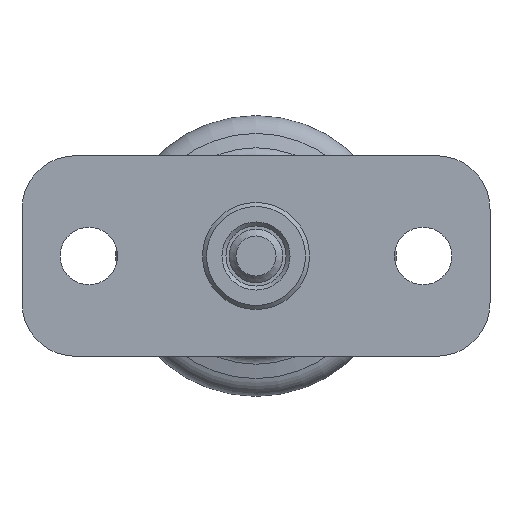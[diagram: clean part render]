
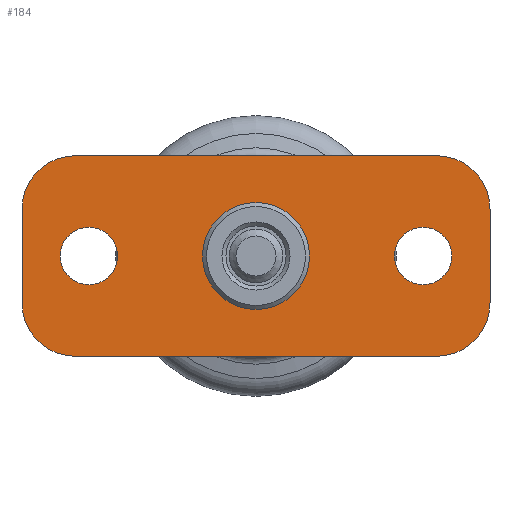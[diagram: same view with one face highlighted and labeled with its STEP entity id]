
A CAD part, front view. The second image highlights one B-rep face of the part: STEP entity #184.
In plain terms, the highlighted planar face has unit normal (0, -1, 0).
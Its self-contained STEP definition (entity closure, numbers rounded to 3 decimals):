
#184 = ADVANCED_FACE( '', ( #294, #295, #296, #297 ), #298, .F. );
#294 = FACE_BOUND( '', #494, .T. );
#295 = FACE_BOUND( '', #495, .T. );
#296 = FACE_OUTER_BOUND( '', #496, .T. );
#297 = FACE_BOUND( '', #497, .T. );
#298 = PLANE( '', #498 );
#494 = EDGE_LOOP( '', ( #742 ) );
#495 = EDGE_LOOP( '', ( #743 ) );
#496 = EDGE_LOOP( '', ( #744, #745, #746, #747, #748, #749, #750, #751 ) );
#497 = EDGE_LOOP( '', ( #752 ) );
#498 = AXIS2_PLACEMENT_3D( '', #753, #754, #755 );
#742 = ORIENTED_EDGE( '', *, *, #1252, .F. );
#743 = ORIENTED_EDGE( '', *, *, #1253, .F. );
#744 = ORIENTED_EDGE( '', *, *, #1254, .F. );
#745 = ORIENTED_EDGE( '', *, *, #1255, .F. );
#746 = ORIENTED_EDGE( '', *, *, #1256, .F. );
#747 = ORIENTED_EDGE( '', *, *, #1257, .F. );
#748 = ORIENTED_EDGE( '', *, *, #1258, .F. );
#749 = ORIENTED_EDGE( '', *, *, #1259, .F. );
#750 = ORIENTED_EDGE( '', *, *, #1260, .F. );
#751 = ORIENTED_EDGE( '', *, *, #1261, .F. );
#752 = ORIENTED_EDGE( '', *, *, #1238, .F. );
#753 = CARTESIAN_POINT( '', ( -13.5, 0., 3.5 ) );
#754 = DIRECTION( '', ( 0., 1., 0. ) );
#755 = DIRECTION( '', ( 0., 0., 1. ) );
#1238 = EDGE_CURVE( '', #1416, #1416, #1417, .T. );
#1252 = EDGE_CURVE( '', #1443, #1443, #1444, .T. );
#1253 = EDGE_CURVE( '', #1445, #1445, #1446, .T. );
#1254 = EDGE_CURVE( '', #1447, #1448, #1449, .T. );
#1255 = EDGE_CURVE( '', #1450, #1447, #1451, .T. );
#1256 = EDGE_CURVE( '', #1452, #1450, #1453, .T. );
#1257 = EDGE_CURVE( '', #1454, #1452, #1455, .T. );
#1258 = EDGE_CURVE( '', #1456, #1454, #1457, .T. );
#1259 = EDGE_CURVE( '', #1458, #1456, #1459, .T. );
#1260 = EDGE_CURVE( '', #1460, #1458, #1461, .T. );
#1261 = EDGE_CURVE( '', #1448, #1460, #1462, .T. );
#1416 = VERTEX_POINT( '', #1723 );
#1417 = CIRCLE( '', #1724, 4. );
#1443 = VERTEX_POINT( '', #1753 );
#1444 = CIRCLE( '', #1754, 2.15 );
#1445 = VERTEX_POINT( '', #1755 );
#1446 = CIRCLE( '', #1756, 2.15 );
#1447 = VERTEX_POINT( '', #1757 );
#1448 = VERTEX_POINT( '', #1758 );
#1449 = CIRCLE( '', #1759, 4. );
#1450 = VERTEX_POINT( '', #1760 );
#1451 = LINE( '', #1761, #1762 );
#1452 = VERTEX_POINT( '', #1763 );
#1453 = CIRCLE( '', #1764, 4. );
#1454 = VERTEX_POINT( '', #1765 );
#1455 = LINE( '', #1766, #1767 );
#1456 = VERTEX_POINT( '', #1768 );
#1457 = CIRCLE( '', #1769, 4. );
#1458 = VERTEX_POINT( '', #1770 );
#1459 = LINE( '', #1771, #1772 );
#1460 = VERTEX_POINT( '', #1773 );
#1461 = CIRCLE( '', #1774, 4. );
#1462 = LINE( '', #1775, #1776 );
#1723 = CARTESIAN_POINT( '', ( 0., 0., -4. ) );
#1724 = AXIS2_PLACEMENT_3D( '', #2221, #2222, #2223 );
#1753 = CARTESIAN_POINT( '', ( 12.5, 0., -2.15 ) );
#1754 = AXIS2_PLACEMENT_3D( '', #2257, #2258, #2259 );
#1755 = CARTESIAN_POINT( '', ( -12.5, 0., -2.15 ) );
#1756 = AXIS2_PLACEMENT_3D( '', #2260, #2261, #2262 );
#1757 = CARTESIAN_POINT( '', ( -13.5, 0., -7.5 ) );
#1758 = CARTESIAN_POINT( '', ( -17.5, 0., -3.5 ) );
#1759 = AXIS2_PLACEMENT_3D( '', #2263, #2264, #2265 );
#1760 = CARTESIAN_POINT( '', ( 13.5, 0., -7.5 ) );
#1761 = CARTESIAN_POINT( '', ( 13.5, 0., -7.5 ) );
#1762 = VECTOR( '', #2266, 1000. );
#1763 = CARTESIAN_POINT( '', ( 17.5, 0., -3.5 ) );
#1764 = AXIS2_PLACEMENT_3D( '', #2267, #2268, #2269 );
#1765 = CARTESIAN_POINT( '', ( 17.5, 0., 3.5 ) );
#1766 = CARTESIAN_POINT( '', ( 17.5, 0., 3.5 ) );
#1767 = VECTOR( '', #2270, 1000. );
#1768 = CARTESIAN_POINT( '', ( 13.5, 0., 7.5 ) );
#1769 = AXIS2_PLACEMENT_3D( '', #2271, #2272, #2273 );
#1770 = CARTESIAN_POINT( '', ( -13.5, 0., 7.5 ) );
#1771 = CARTESIAN_POINT( '', ( -13.5, 0., 7.5 ) );
#1772 = VECTOR( '', #2274, 1000. );
#1773 = CARTESIAN_POINT( '', ( -17.5, 0., 3.5 ) );
#1774 = AXIS2_PLACEMENT_3D( '', #2275, #2276, #2277 );
#1775 = CARTESIAN_POINT( '', ( -17.5, 0., -3.5 ) );
#1776 = VECTOR( '', #2278, 1000. );
#2221 = CARTESIAN_POINT( '', ( 0., 0., 0. ) );
#2222 = DIRECTION( '', ( 0., -1., 0. ) );
#2223 = DIRECTION( '', ( 0., 0., -1. ) );
#2257 = CARTESIAN_POINT( '', ( 12.5, 0., 0. ) );
#2258 = DIRECTION( '', ( 0., -1., 0. ) );
#2259 = DIRECTION( '', ( 0., 0., -1. ) );
#2260 = CARTESIAN_POINT( '', ( -12.5, 0., 0. ) );
#2261 = DIRECTION( '', ( 0., -1., 0. ) );
#2262 = DIRECTION( '', ( 0., 0., -1. ) );
#2263 = CARTESIAN_POINT( '', ( -13.5, 0., -3.5 ) );
#2264 = DIRECTION( '', ( 0., 1., 0. ) );
#2265 = DIRECTION( '', ( 1., 0., 0. ) );
#2266 = DIRECTION( '', ( -1., 0., 0. ) );
#2267 = CARTESIAN_POINT( '', ( 13.5, 0., -3.5 ) );
#2268 = DIRECTION( '', ( 0., 1., 0. ) );
#2269 = DIRECTION( '', ( 1., 0., 0. ) );
#2270 = DIRECTION( '', ( 0., 0., -1. ) );
#2271 = CARTESIAN_POINT( '', ( 13.5, 0., 3.5 ) );
#2272 = DIRECTION( '', ( 0., 1., 0. ) );
#2273 = DIRECTION( '', ( 1., 0., 0. ) );
#2274 = DIRECTION( '', ( 1., 0., 0. ) );
#2275 = CARTESIAN_POINT( '', ( -13.5, 0., 3.5 ) );
#2276 = DIRECTION( '', ( 0., 1., 0. ) );
#2277 = DIRECTION( '', ( 1., 0., 0. ) );
#2278 = DIRECTION( '', ( 0., 0., 1. ) );
